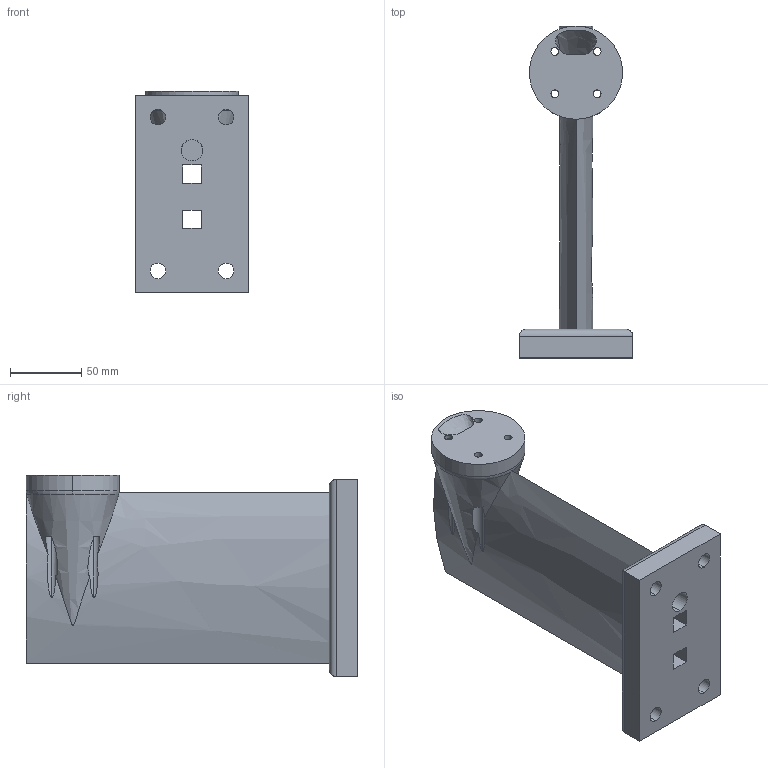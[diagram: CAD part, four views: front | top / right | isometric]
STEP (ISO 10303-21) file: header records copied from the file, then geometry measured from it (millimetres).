
FILE_DESCRIPTION (( 'STEP AP214' ), '1' );
FILE_NAME ('fuselagev3.STEP', '2024-12-16T12:39:08', ( '' ), ( '' ), 'SwSTEP 2.0', 'SolidWorks 2023', '' );
FILE_SCHEMA (( 'AUTOMOTIVE_DESIGN' ));
Length unit declared in the file: millimetre
Products named in the file (1): fuselagev3
Bounding box: 80 x 233 x 141.23 mm (x, y, z)
Volume: 598514.8 mm3; surface area: 130630.2 mm2
Topology: 1 solids, 1 shells, 68 faces, 201 edges, 134 vertices
Faces by surface type: cylinder 36, plane 23, bspline 4, cone 3, torus 2
Entity records: 3243 total; most frequent: CARTESIAN_POINT 1395, ORIENTED_EDGE 402, DIRECTION 350, EDGE_CURVE 201, AXIS2_PLACEMENT_3D 135, VERTEX_POINT 134, EDGE_LOOP 93, LINE 80
